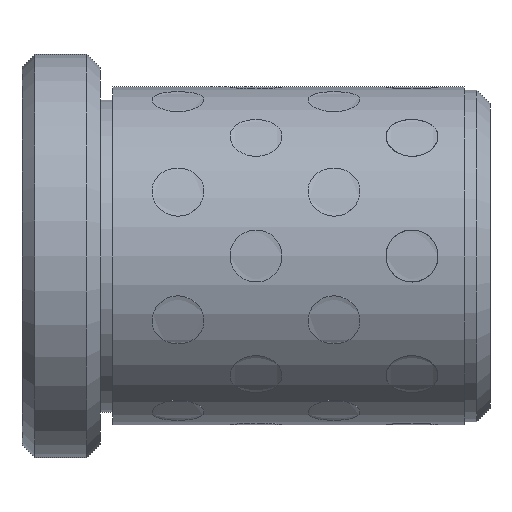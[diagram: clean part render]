
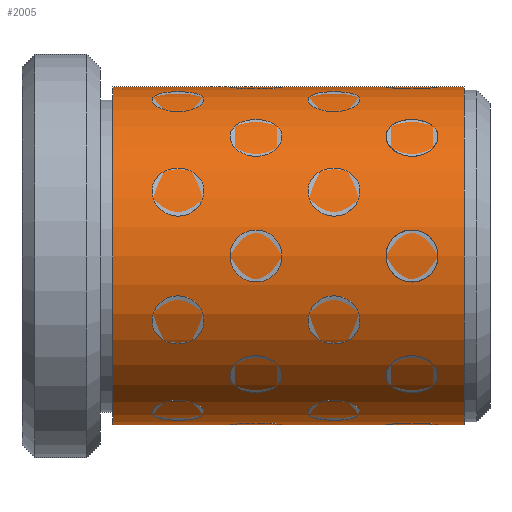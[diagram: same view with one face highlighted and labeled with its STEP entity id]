
A CAD part, left-side view. The second image highlights one B-rep face of the part: STEP entity #2005.
In plain terms, the highlighted cylindrical face has radius 13 mm (diameter 26 mm), a full revolution.
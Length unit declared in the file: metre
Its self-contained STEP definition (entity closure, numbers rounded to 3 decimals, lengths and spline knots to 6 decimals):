
#2005 = ADVANCED_FACE( '', ( #2158, #2159 ), #2160, .T. );
#2158 = FACE_OUTER_BOUND( '', #2483, .T. );
#2159 = FACE_OUTER_BOUND( '', #2484, .T. );
#2160 = CYLINDRICAL_SURFACE( '', #2485, 0.013 );
#2483 = EDGE_LOOP( '', ( #2824 ) );
#2484 = EDGE_LOOP( '', ( #2825 ) );
#2485 = AXIS2_PLACEMENT_3D( '', #2826, #2827, #2828 );
#2824 = ORIENTED_EDGE( '', *, *, #3388, .T. );
#2825 = ORIENTED_EDGE( '', *, *, #3387, .F. );
#2826 = CARTESIAN_POINT( '', ( 0., 0., 0. ) );
#2827 = DIRECTION( '', ( 0., 1., 0. ) );
#2828 = DIRECTION( '', ( 0., 0., -1. ) );
#3387 = EDGE_CURVE( '', #3490, #3490, #3491, .T. );
#3388 = EDGE_CURVE( '', #3492, #3492, #3493, .T. );
#3490 = VERTEX_POINT( '', #3680 );
#3491 = CIRCLE( '', #3681, 0.013 );
#3492 = VERTEX_POINT( '', #3682 );
#3493 = CIRCLE( '', #3683, 0.013 );
#3680 = CARTESIAN_POINT( '', ( 0., 0.002, -0.013 ) );
#3681 = AXIS2_PLACEMENT_3D( '', #8198, #8199, #8200 );
#3682 = CARTESIAN_POINT( '', ( 0., 0.029, -0.013 ) );
#3683 = AXIS2_PLACEMENT_3D( '', #8201, #8202, #8203 );
#8198 = CARTESIAN_POINT( '', ( 0., 0.002, 0. ) );
#8199 = DIRECTION( '', ( 0., -1., 0. ) );
#8200 = DIRECTION( '', ( 0., 0., -1. ) );
#8201 = CARTESIAN_POINT( '', ( 0., 0.029, 0. ) );
#8202 = DIRECTION( '', ( 0., -1., 0. ) );
#8203 = DIRECTION( '', ( 0., 0., -1. ) );
